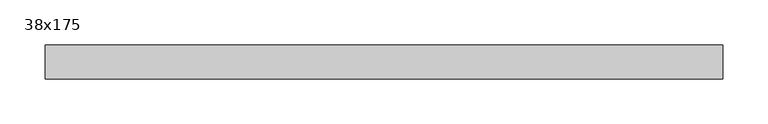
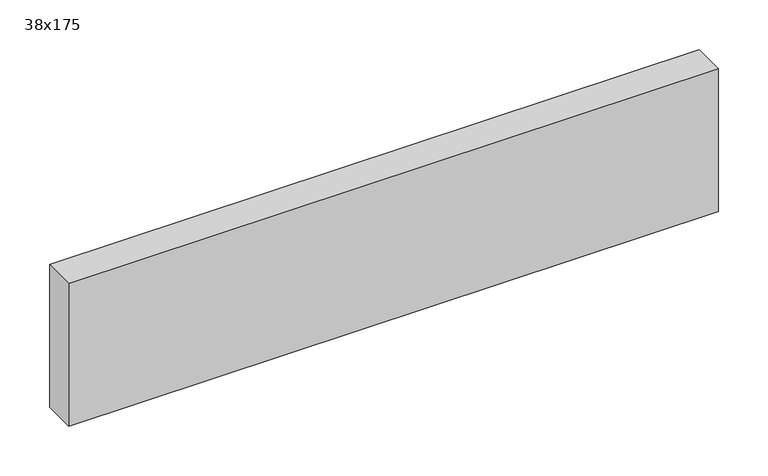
"""IFC4 building model written with IfcOpenShell, lengths in millimetres: beam geometry, Graded Timber : 38x175."""

from ifc_helpers import new_model, si_unit, frame, origin, place, context, project, spatial, polyline, outline, extrude, source, transform, mapped, element, save


def beam_38x175_c6337a63(model_context):
    return source(origin(), model_context, "Body", "SweptSolid", [
        extrude(outline(polyline([(403.5000016, 19.0), (403.5000016, -19.0), (-348.5000025, -19.0), (-348.5000025, 19.0), (403.5000016, 19.0)])), frame((0.0, 0.0, -87.5), z_axis=(0.0, 0.0, 1.0), x_axis=(1.0, 0.0, 0.0)), (0.0, 0.0, 1.0), 175.0),
    ])


if __name__ == "__main__":
    model = new_model("IFC4")
    model_context = context("Model", 3, world=origin())
    ifc_project = project(units=[si_unit("LENGTHUNIT", "METRE", prefix="MILLI")], contexts=[model_context])
    site = spatial("IfcSite", under=ifc_project)
    building = spatial("IfcBuilding", under=site)
    placement = place(None, origin())
    beam_38x175_shape = beam_38x175_c6337a63(model_context)
    element("IfcBeam", 1, ObjectType="Graded Timber : 38x175", at=placement, inside=building, context=model_context, shape_type="MappedRepresentation", body=[
        mapped(beam_38x175_shape, transform((0.0, 0.0, 0.0), x_axis=(1.0, 0.0, 0.0), y_axis=(0.0, 1.0, 0.0), z_axis=(0.0, 0.0, 1.0))),
    ])
    save(model, "model.ifc")
